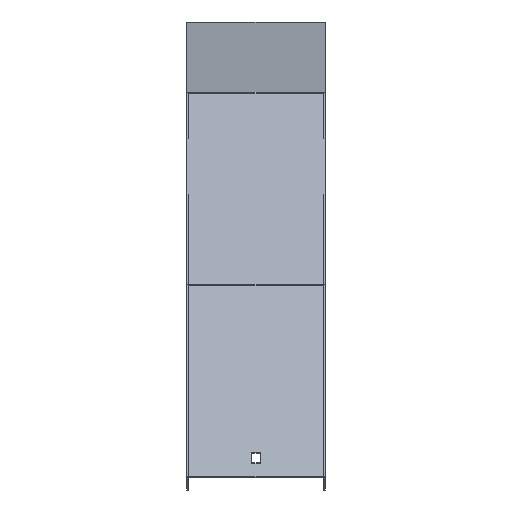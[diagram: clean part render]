
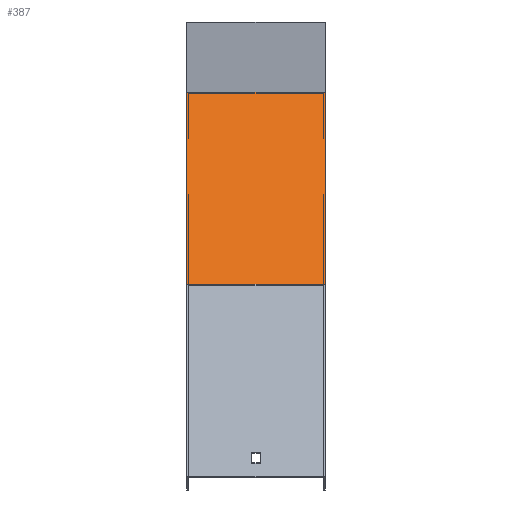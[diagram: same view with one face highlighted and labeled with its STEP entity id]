
A CAD part, top view. The second image highlights one B-rep face of the part: STEP entity #387.
In plain terms, the highlighted planar face has unit normal (0, 0.707, 0.707).
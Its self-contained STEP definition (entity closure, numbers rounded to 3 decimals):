
#15 = FACE_OUTER_BOUND ( 'NONE', #298, .T. ) ;
#36 = VERTEX_POINT ( 'NONE', #591 ) ;
#70 = CARTESIAN_POINT ( 'NONE',  ( 51.5, -176.075, 505.245 ) ) ;
#86 = DIRECTION ( 'NONE',  ( 0., -0.707, -0.707 ) ) ;
#165 = EDGE_CURVE ( 'NONE', #186, #638, #572, .T. ) ;
#184 = PLANE ( 'NONE',  #885 ) ;
#186 = VERTEX_POINT ( 'NONE', #395 ) ;
#198 = DIRECTION ( 'NONE',  ( -1., 0., 0. ) ) ;
#245 = ORIENTED_EDGE ( 'NONE', *, *, #165, .T. ) ;
#260 = VECTOR ( 'NONE', #198, 1000. ) ;
#298 = EDGE_LOOP ( 'NONE', ( #861, #534, #834, #245 ) ) ;
#305 = CARTESIAN_POINT ( 'NONE',  ( -51.5, -32.538, 361.708 ) ) ;
#387 = ADVANCED_FACE ( 'NONE', ( #15 ), #184, .F. ) ;
#395 = CARTESIAN_POINT ( 'NONE',  ( 51.5, -32.538, 361.708 ) ) ;
#402 = VECTOR ( 'NONE', #939, 1000. ) ;
#408 = LINE ( 'NONE', #418, #539 ) ;
#409 = CARTESIAN_POINT ( 'NONE',  ( -51.5, -36.328, 365.498 ) ) ;
#418 = CARTESIAN_POINT ( 'NONE',  ( 51.5, -36.328, 365.498 ) ) ;
#424 = EDGE_CURVE ( 'NONE', #638, #851, #567, .T. ) ;
#474 = CARTESIAN_POINT ( 'NONE',  ( 51.5, -36.328, 365.498 ) ) ;
#534 = ORIENTED_EDGE ( 'NONE', *, *, #862, .F. ) ;
#539 = VECTOR ( 'NONE', #648, 1000. ) ;
#567 = LINE ( 'NONE', #409, #402 ) ;
#572 = LINE ( 'NONE', #872, #260 ) ;
#591 = CARTESIAN_POINT ( 'NONE',  ( 51.5, -176.075, 505.245 ) ) ;
#638 = VERTEX_POINT ( 'NONE', #305 ) ;
#648 = DIRECTION ( 'NONE',  ( 0., -0.707, 0.707 ) ) ;
#663 = LINE ( 'NONE', #70, #844 ) ;
#773 = DIRECTION ( 'NONE',  ( 0., 0.707, -0.707 ) ) ;
#815 = CARTESIAN_POINT ( 'NONE',  ( -51.5, -176.075, 505.245 ) ) ;
#824 = EDGE_CURVE ( 'NONE', #186, #36, #408, .T. ) ;
#834 = ORIENTED_EDGE ( 'NONE', *, *, #824, .F. ) ;
#844 = VECTOR ( 'NONE', #887, 1000. ) ;
#851 = VERTEX_POINT ( 'NONE', #815 ) ;
#861 = ORIENTED_EDGE ( 'NONE', *, *, #424, .T. ) ;
#862 = EDGE_CURVE ( 'NONE', #36, #851, #663, .T. ) ;
#872 = CARTESIAN_POINT ( 'NONE',  ( 51.5, -32.538, 361.708 ) ) ;
#885 = AXIS2_PLACEMENT_3D ( 'NONE', #474, #86, #773 ) ;
#887 = DIRECTION ( 'NONE',  ( -1., 0., 0. ) ) ;
#939 = DIRECTION ( 'NONE',  ( 0., -0.707, 0.707 ) ) ;
